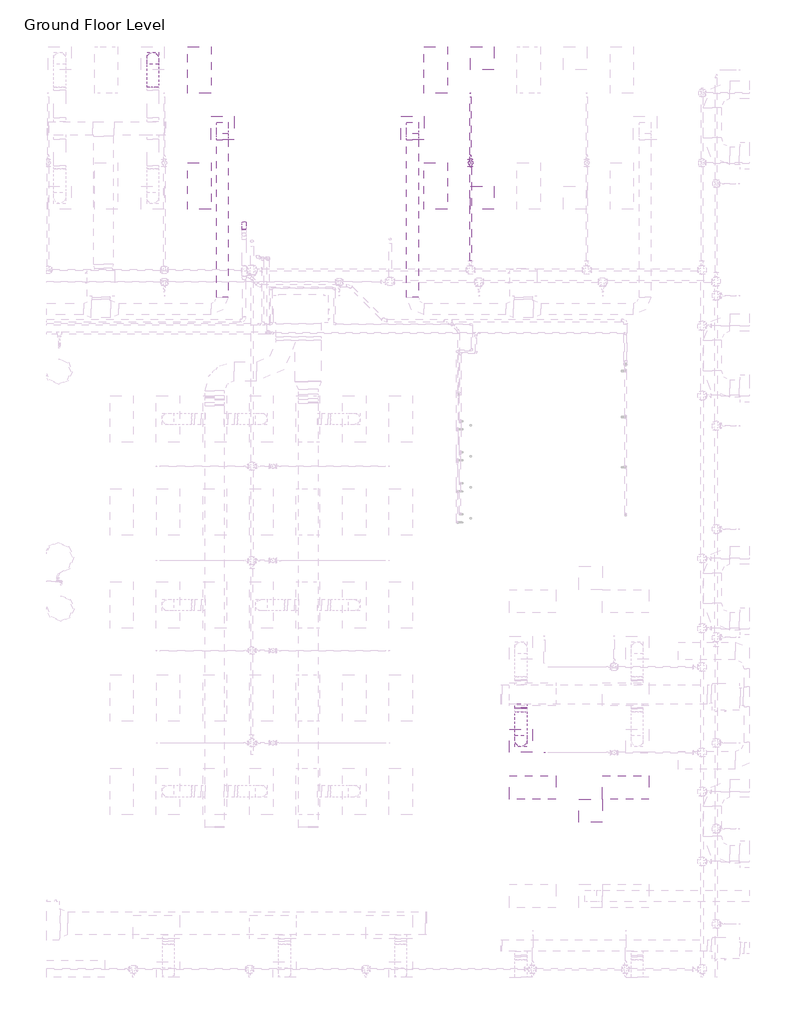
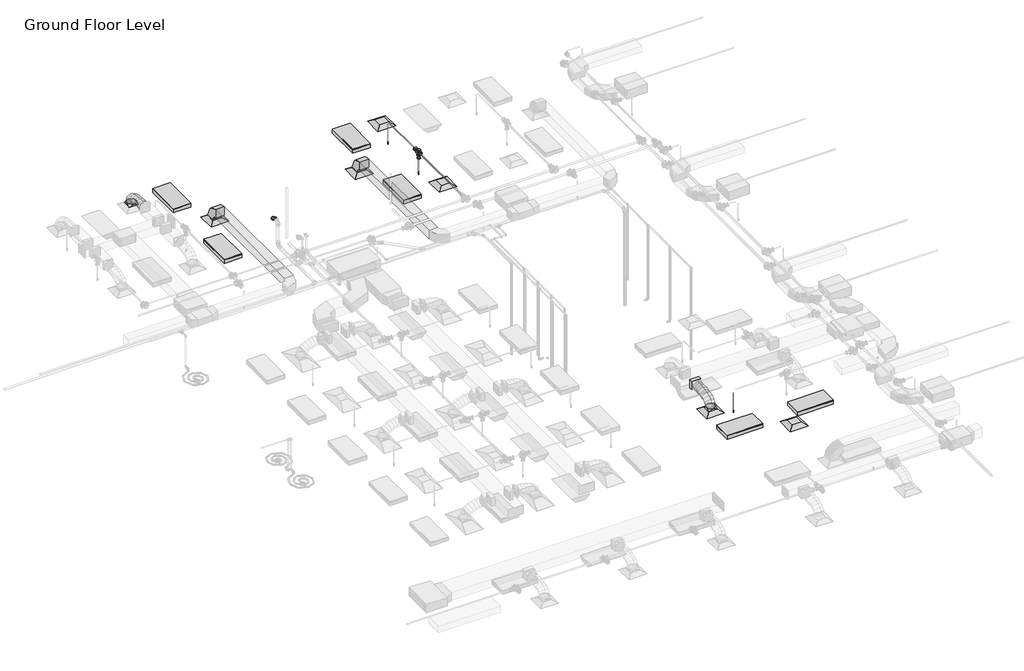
# One storey, part 56 of 68: 7 duct segments, 6 air terminals, 6 light fixtures, 6 pipe segments, 5 duct fittings, 4 pipe fittings, 3 fire suppression terminals.
"""IFC4 building model written with IfcOpenShell, lengths in millimetres."""

from ifc_helpers import new_model, si_unit, point, frame, frame_2d, origin, place, context, project, spatial, polyline, circle_curve, ellipse_curve, trimmed, segment, composite_curve, outline, extrude, transform, mapped, element, save
from ifc_brep_helpers import plane_surface, cylinder_surface, advanced_brep
from components import m_return_diffuser_600_x_600_face_300_x_300_connection_ff221211, m_rectangular_elbow_radius_1_w_618da153, m_rectangular_takeoff_standard_cb0ccb98, m_rectangular_to_round_transition_angle_45_degree_641efff0, m_sprinkler_dry_pendent_hosted_15_mm_dry_pendent_9bda8e11, m_troffer_light_parabolic_rectangular1_0600x1200mm_4_lamp_86473d4a, m_bend_pvc_sch_40_dwv_standard_97688ec5, m_reducer_flanged_cs_class_150_standard_d42b2106, m_tee_round_base_flanged_cs_class_150_standard_7e5987a1

model = new_model("IFC4")

# Units and contexts
model_context = context("Model", 3, world=origin())
ifc_project = project(units=[si_unit("LENGTHUNIT", "METRE", prefix="MILLI")], contexts=[model_context])

# Site, building, storey
site = spatial("IfcSite", under=ifc_project)
building = spatial("IfcBuilding", under=site)
storey = spatial("IfcBuildingStorey", under=building, Name="Ground Floor Level", Elevation=900.0)

# Air terminals
placement = place(None, origin())
m_return_diffuser_600_x_600_face_300_x_300_connection_shape = m_return_diffuser_600_x_600_face_300_x_300_connection_ff221211(model_context)
element("IfcAirTerminal", 1, ObjectType="M_Return Diffuser : 600 x 600 Face 300 x 300 Connection", at=placement, inside=storey, context=model_context, shape_type="MappedRepresentation", body=[
    mapped(m_return_diffuser_600_x_600_face_300_x_300_connection_shape, transform((-6737.2327605, 18735.2153534, 3650.0), x_axis=(1.0, 0.0, 0.0), y_axis=(0.0, 1.0, 0.0), z_axis=(0.0, 0.0, 1.0))),
])
element("IfcAirTerminal", 2, ObjectType="M_Return Diffuser : 600 x 600 Face 300 x 300 Connection", at=placement, inside=storey, context=model_context, shape_type="MappedRepresentation", body=[
    mapped(m_return_diffuser_600_x_600_face_300_x_300_connection_shape, transform((-1837.2327605, 18735.2153534, 3650.0), x_axis=(1.0, 0.0, 0.0), y_axis=(0.0, 1.0, 0.0), z_axis=(0.0, 0.0, 1.0))),
])
element("IfcAirTerminal", 3, ObjectType="M_Return Diffuser : 600 x 600 Face 300 x 300 Connection", at=placement, inside=storey, context=model_context, shape_type="MappedRepresentation", body=[
    mapped(m_return_diffuser_600_x_600_face_300_x_300_connection_shape, transform((2762.7672395, 1135.2153534, 3650.0), x_axis=(1.0, 0.0, 0.0), y_axis=(0.0, 1.0, 0.0), z_axis=(0.0, 0.0, 1.0))),
])
element("IfcAirTerminal", 4, ObjectType="M_Supply Diffuser : 600 x 600 Face 300 x 300 Connection", at=placement, inside=storey, context=model_context, shape_type="MappedRepresentation", body=[
    mapped(m_return_diffuser_600_x_600_face_300_x_300_connection_shape, transform((-37.2327605, 20535.2153534, 3650.0), x_axis=(1.0, 0.0, 0.0), y_axis=(0.0, 1.0, 0.0), z_axis=(0.0, 0.0, 1.0))),
])
element("IfcAirTerminal", 5, ObjectType="M_Supply Diffuser : 600 x 600 Face 300 x 300 Connection", at=placement, inside=storey, context=model_context, shape_type="MappedRepresentation", body=[
    mapped(m_return_diffuser_600_x_600_face_300_x_300_connection_shape, transform((-37.2327605, 16935.2153534, 3650.0), x_axis=(1.0, 0.0, 0.0), y_axis=(0.0, 1.0, 0.0), z_axis=(0.0, 0.0, 1.0))),
])
element("IfcAirTerminal", 6, ObjectType="M_Supply Diffuser : 600 x 600 Face 300 x 300 Connection", at=placement, inside=storey, context=model_context, shape_type="MappedRepresentation", body=[
    mapped(m_return_diffuser_600_x_600_face_300_x_300_connection_shape, transform((962.7672395, 2935.2153534, 3650.0), x_axis=(1.0, 0.0, 0.0), y_axis=(0.0, 1.0, 0.0), z_axis=(0.0, 0.0, 1.0))),
])

# Duct fittings
m_rectangular_elbow_radius_1_w_shape = m_rectangular_elbow_radius_1_w_618da153(model_context)
element("IfcDuctFitting", 7, ObjectType="M_Rectangular Elbow - Radius : 1 W", at=placement, inside=storey, context=model_context, shape_type="MappedRepresentation", body=[
    mapped(m_rectangular_elbow_radius_1_w_shape, transform((-6737.2327605, 18735.2153534, 4075.2872564), x_axis=(0.0, 0.0, 1.0), y_axis=(0.0, -1.0, 0.0), z_axis=(1.0, 0.0, 0.0))),
])
element("IfcDuctFitting", 8, ObjectType="M_Rectangular Elbow - Radius : 1 W", at=placement, inside=storey, context=model_context, shape_type="MappedRepresentation", body=[
    mapped(m_rectangular_elbow_radius_1_w_shape, transform((-1837.2327605, 18735.2153534, 4075.2872564), x_axis=(0.0, 0.0, 1.0), y_axis=(0.0, -1.0, 0.0), z_axis=(1.0, 0.0, 0.0))),
])
m_rectangular_takeoff_standard_shape = m_rectangular_takeoff_standard_cb0ccb98(model_context)
element("IfcDuctFitting", 9, ObjectType="M_Rectangular Takeoff : Standard", at=placement, inside=storey, context=model_context, shape_type="MappedRepresentation", body=[
    mapped(m_rectangular_takeoff_standard_shape, transform((962.7672395, 3885.0199167, 4099.9886676), x_axis=(0.0, -1.0, 0.0), y_axis=(-1.0, 0.0, 0.0), z_axis=(0.0, 0.0, -1.0))),
])
m_rectangular_to_round_transition_angle_45_degree_shape = m_rectangular_to_round_transition_angle_45_degree_641efff0(model_context)
element("IfcDuctFitting", 10, ObjectType="M_Rectangular to Round Transition - Angle : 45 Degree", at=placement, inside=storey, context=model_context, shape_type="MappedRepresentation", body=[
    mapped(m_rectangular_to_round_transition_angle_45_degree_shape, transform((-8537.2327605, 20535.2153534, 3751.6), x_axis=(0.0, 0.0, 1.0), y_axis=(-1.0, 0.0, 0.0), z_axis=(0.0, -1.0, 0.0))),
])
element("IfcDuctFitting", 11, ObjectType="M_Rectangular to Round Transition - Angle : 45 Degree", at=placement, inside=storey, context=model_context, shape_type="MappedRepresentation", body=[
    mapped(m_rectangular_to_round_transition_angle_45_degree_shape, transform((962.7672395, 2935.2153534, 3751.6), x_axis=(0.0, 0.0, 1.0), y_axis=(-1.0, 0.0, 0.0), z_axis=(0.0, -1.0, 0.0))),
])

# Duct segments
element("IfcDuctSegment", 12, ObjectType="Flex - Round", at=placement, inside=storey, context=model_context, shape_type="AdvancedBrep", body=[
    advanced_brep(
    [(-8387.2327605, 20535.2153534, 3826.6), (-8537.2327605, 20385.2153534, 3826.6), (-8687.2327605, 20535.2153534, 3826.6), (-8537.2327605, 20685.2153534, 3826.6), (-8387.2327605, 20535.2153534, 3857.937778), (-8537.2327605, 20385.2153534, 3832.2944744), (-8687.2327605, 20535.2153534, 3857.937778), (-8537.2327605, 20685.2153534, 3883.5810816), (-8387.2327605, 20518.1993769, 3906.2506017), (-8537.2327605, 20384.4614978, 3834.4348684), (-8687.2327605, 20518.1993769, 3906.2506017), (-8537.2327605, 20651.937256, 3978.0663351), (-8387.2327605, 20471.0153769, 3968.7112406), (-8537.2327605, 20366.8097489, 3857.8016772), (-8687.2327605, 20471.0153769, 3968.7112406), (-8537.2327605, 20575.2210049, 4079.6208039), (-8387.2327605, 20399.4592477, 4016.0697935), (-8537.2327605, 20330.5256195, 3881.8158865), (-8687.2327605, 20399.4592477, 4016.0697935), (-8537.2327605, 20468.3928758, 4150.3237004), (-8387.2327605, 20309.3268835, 4050.4141374), (-8537.2327605, 20265.7665876, 3906.4918893), (-8687.2327605, 20309.3268835, 4050.4141374), (-8537.2327605, 20352.8871794, 4194.3363855), (-8387.2327605, 20206.4141786, 4073.8321493), (-8537.2327605, 20179.8536975, 3926.0415559), (-8687.2327605, 20206.4141786, 4073.8321493), (-8537.2327605, 20232.9746597, 4221.6227426), (-8387.2327605, 20096.5170273, 4088.411706), (-8537.2327605, 20081.3665099, 3939.1074046), (-8687.2327605, 20096.5170273, 4088.411706), (-8537.2327605, 20111.6675446, 4237.7160075), (-8387.2327605, 19985.4313238, 4096.2406846), (-8537.2327605, 19977.9262951, 3946.3975526), (-8687.2327605, 19985.4313238, 4096.2406846), (-8537.2327605, 19992.9363525, 4246.0838166), (-8387.2327605, 19878.9529624, 4099.406962), (-8537.2327605, 19876.2616453, 3949.4206879), (-8687.2327605, 19878.9529624, 4099.406962), (-8537.2327605, 19881.6442795, 4249.3932362), (-8387.2327605, 19782.8778373, 4099.9984152), (-8537.2327605, 19783.8012427, 4249.9955729), (-8687.2327605, 19782.8778373, 4099.9984152), (-8537.2327605, 19781.9544319, 3950.0012575)],
    [
        (0, 1, circle_curve(frame((-8537.2327605, 20535.2153534, 3826.6), z_axis=(0.0, 0.0, -1.0), x_axis=(1.0, 0.0, 0.0)), 150.0)),
        (1, 2, circle_curve(frame((-8537.2327605, 20535.2153534, 3826.6), z_axis=(0.0, 0.0, -1.0), x_axis=(1.0, 0.0, 0.0)), 150.0)),
        (2, 3, circle_curve(frame((-8537.2327605, 20535.2153534, 3826.6), z_axis=(0.0, 0.0, -1.0), x_axis=(1.0, 0.0, 0.0)), 150.0)),
        (3, 0, circle_curve(frame((-8537.2327605, 20535.2153534, 3826.6), z_axis=(0.0, 0.0, -1.0), x_axis=(1.0, 0.0, 0.0)), 150.0)),
        (0, 4),
        (4, 5, ellipse_curve(frame((-8537.2327605, 20535.2153534, 3857.937778), z_axis=(0.0, 0.16851066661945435, -0.985699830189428), x_axis=(0.0, -0.985699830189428, -0.16851066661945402)), 152.1761447, 150.0)),
        (5, 1),
        (5, 6, ellipse_curve(frame((-8537.2327605, 20535.2153534, 3857.937778), z_axis=(0.0, 0.16851066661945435, -0.985699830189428), x_axis=(0.0, -0.985699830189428, -0.16851066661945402)), 152.1761447, 150.0)),
        (6, 2),
        (6, 7, ellipse_curve(frame((-8537.2327605, 20535.2153534, 3857.937778), z_axis=(0.0, 0.16851066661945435, -0.985699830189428), x_axis=(0.0, -0.985699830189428, -0.16851066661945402)), 152.1761447, 150.0)),
        (7, 3),
        (7, 4, ellipse_curve(frame((-8537.2327605, 20535.2153534, 3857.937778), z_axis=(0.0, 0.16851066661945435, -0.985699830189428), x_axis=(0.0, -0.985699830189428, -0.16851066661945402)), 152.1761447, 150.0)),
        (4, 8),
        (8, 9, ellipse_curve(frame((-8537.2327605, 20518.1993769, 3906.2506017), z_axis=(0.0, 0.4730936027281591, -0.8810121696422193), x_axis=(0.0, -0.8810121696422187, -0.4730936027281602)), 151.8002631, 150.0)),
        (9, 5),
        (9, 10, ellipse_curve(frame((-8537.2327605, 20518.1993769, 3906.2506017), z_axis=(0.0, 0.4730936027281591, -0.8810121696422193), x_axis=(0.0, -0.8810121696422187, -0.4730936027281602)), 151.8002631, 150.0)),
        (10, 6),
        (10, 11, ellipse_curve(frame((-8537.2327605, 20518.1993769, 3906.2506017), z_axis=(0.0, 0.4730936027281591, -0.8810121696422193), x_axis=(0.0, -0.8810121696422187, -0.4730936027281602)), 151.8002631, 150.0)),
        (11, 7),
        (11, 8, ellipse_curve(frame((-8537.2327605, 20518.1993769, 3906.2506017), z_axis=(0.0, 0.4730936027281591, -0.8810121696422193), x_axis=(0.0, -0.8810121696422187, -0.4730936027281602)), 151.8002631, 150.0)),
        (8, 12),
        (12, 13, ellipse_curve(frame((-8537.2327605, 20471.0153769, 3968.7112406), z_axis=(0.0, 0.7287895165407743, -0.6847377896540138), x_axis=(0.0, -0.6847377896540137, -0.7287895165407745)), 152.1832584, 150.0)),
        (13, 9),
        (13, 14, ellipse_curve(frame((-8537.2327605, 20471.0153769, 3968.7112406), z_axis=(0.0, 0.7287895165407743, -0.6847377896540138), x_axis=(0.0, -0.6847377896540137, -0.7287895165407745)), 152.1832584, 150.0)),
        (14, 10),
        (14, 15, ellipse_curve(frame((-8537.2327605, 20471.0153769, 3968.7112406), z_axis=(0.0, 0.7287895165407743, -0.6847377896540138), x_axis=(0.0, -0.6847377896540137, -0.7287895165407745)), 152.1832584, 150.0)),
        (15, 11),
        (15, 12, ellipse_curve(frame((-8537.2327605, 20471.0153769, 3968.7112406), z_axis=(0.0, 0.7287895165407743, -0.6847377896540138), x_axis=(0.0, -0.6847377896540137, -0.7287895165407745)), 152.1832584, 150.0)),
        (12, 16),
        (16, 17, ellipse_curve(frame((-8537.2327605, 20399.4592477, 4016.0697935), z_axis=(0.0, 0.8895873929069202, -0.4567650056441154), x_axis=(0.0, -0.4567650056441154, -0.8895873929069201)), 150.9170521, 150.0)),
        (17, 13),
        (17, 18, ellipse_curve(frame((-8537.2327605, 20399.4592477, 4016.0697935), z_axis=(0.0, 0.8895873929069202, -0.4567650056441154), x_axis=(0.0, -0.4567650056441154, -0.8895873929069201)), 150.9170521, 150.0)),
        (18, 14),
        (18, 19, ellipse_curve(frame((-8537.2327605, 20399.4592477, 4016.0697935), z_axis=(0.0, 0.8895873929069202, -0.4567650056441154), x_axis=(0.0, -0.4567650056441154, -0.8895873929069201)), 150.9170521, 150.0)),
        (19, 15),
        (19, 16, ellipse_curve(frame((-8537.2327605, 20399.4592477, 4016.0697935), z_axis=(0.0, 0.8895873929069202, -0.4567650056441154), x_axis=(0.0, -0.4567650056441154, -0.8895873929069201)), 150.9170521, 150.0)),
        (16, 20),
        (20, 21, ellipse_curve(frame((-8537.2327605, 20309.3268835, 4050.4141374), z_axis=(0.0, 0.9571212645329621, -0.2896875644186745), x_axis=(0.0, -0.28968756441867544, -0.9571212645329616)), 150.3699202, 150.0)),
        (21, 17),
        (21, 22, ellipse_curve(frame((-8537.2327605, 20309.3268835, 4050.4141374), z_axis=(0.0, 0.9571212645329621, -0.2896875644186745), x_axis=(0.0, -0.28968756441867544, -0.9571212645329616)), 150.3699202, 150.0)),
        (22, 18),
        (22, 23, ellipse_curve(frame((-8537.2327605, 20309.3268835, 4050.4141374), z_axis=(0.0, 0.9571212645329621, -0.2896875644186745), x_axis=(0.0, -0.28968756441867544, -0.9571212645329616)), 150.3699202, 150.0)),
        (23, 19),
        (23, 20, ellipse_curve(frame((-8537.2327605, 20309.3268835, 4050.4141374), z_axis=(0.0, 0.9571212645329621, -0.2896875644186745), x_axis=(0.0, -0.28968756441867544, -0.9571212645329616)), 150.3699202, 150.0)),
        (20, 24),
        (24, 25, ellipse_curve(frame((-8537.2327605, 20206.4141786, 4073.8321493), z_axis=(0.0, 0.9842318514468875, -0.17688318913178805), x_axis=(0.0, -0.17688318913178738, -0.9842318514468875)), 150.1583119, 150.0)),
        (25, 21),
        (25, 26, ellipse_curve(frame((-8537.2327605, 20206.4141786, 4073.8321493), z_axis=(0.0, 0.9842318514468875, -0.17688318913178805), x_axis=(0.0, -0.17688318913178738, -0.9842318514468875)), 150.1583119, 150.0)),
        (26, 22),
        (26, 27, ellipse_curve(frame((-8537.2327605, 20206.4141786, 4073.8321493), z_axis=(0.0, 0.9842318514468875, -0.17688318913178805), x_axis=(0.0, -0.17688318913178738, -0.9842318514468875)), 150.1583119, 150.0)),
        (27, 23),
        (27, 24, ellipse_curve(frame((-8537.2327605, 20206.4141786, 4073.8321493), z_axis=(0.0, 0.9842318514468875, -0.17688318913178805), x_axis=(0.0, -0.17688318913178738, -0.9842318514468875)), 150.1583119, 150.0)),
        (24, 28),
        (28, 29, ellipse_curve(frame((-8537.2327605, 20096.5170273, 4088.411706), z_axis=(0.0, 0.9948909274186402, -0.10095564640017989), x_axis=(0.0, -0.10095564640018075, -0.99489092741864)), 150.0710252, 150.0)),
        (29, 25),
        (29, 30, ellipse_curve(frame((-8537.2327605, 20096.5170273, 4088.411706), z_axis=(0.0, 0.9948909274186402, -0.10095564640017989), x_axis=(0.0, -0.10095564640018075, -0.99489092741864)), 150.0710252, 150.0)),
        (30, 26),
        (30, 31, ellipse_curve(frame((-8537.2327605, 20096.5170273, 4088.411706), z_axis=(0.0, 0.9948909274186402, -0.10095564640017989), x_axis=(0.0, -0.10095564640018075, -0.99489092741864)), 150.0710252, 150.0)),
        (31, 27),
        (31, 28, ellipse_curve(frame((-8537.2327605, 20096.5170273, 4088.411706), z_axis=(0.0, 0.9948909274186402, -0.10095564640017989), x_axis=(0.0, -0.10095564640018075, -0.99489092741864)), 150.0710252, 150.0)),
        (28, 32),
        (32, 33, ellipse_curve(frame((-8537.2327605, 19985.4313238, 4096.2406846), z_axis=(0.0, 0.9987480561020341, -0.05002319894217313), x_axis=(0.0, -0.050023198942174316, -0.9987480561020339)), 150.0309623, 150.0)),
        (33, 29),
        (33, 34, ellipse_curve(frame((-8537.2327605, 19985.4313238, 4096.2406846), z_axis=(0.0, 0.9987480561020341, -0.05002319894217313), x_axis=(0.0, -0.050023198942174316, -0.9987480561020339)), 150.0309623, 150.0)),
        (34, 30),
        (34, 35, ellipse_curve(frame((-8537.2327605, 19985.4313238, 4096.2406846), z_axis=(0.0, 0.9987480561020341, -0.05002319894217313), x_axis=(0.0, -0.050023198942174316, -0.9987480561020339)), 150.0309623, 150.0)),
        (35, 31),
        (35, 32, ellipse_curve(frame((-8537.2327605, 19985.4313238, 4096.2406846), z_axis=(0.0, 0.9987480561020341, -0.05002319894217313), x_axis=(0.0, -0.050023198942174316, -0.9987480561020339)), 150.0309623, 150.0)),
        (32, 36),
        (36, 37, ellipse_curve(frame((-8537.2327605, 19878.9529624, 4099.406962), z_axis=(0.0, 0.99983904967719, -0.017940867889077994), x_axis=(0.0, -0.017940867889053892, -0.9998390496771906)), 150.0104184, 150.0)),
        (37, 33),
        (37, 38, ellipse_curve(frame((-8537.2327605, 19878.9529624, 4099.406962), z_axis=(0.0, 0.99983904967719, -0.017940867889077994), x_axis=(0.0, -0.017940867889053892, -0.9998390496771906)), 150.0104184, 150.0)),
        (38, 34),
        (38, 39, ellipse_curve(frame((-8537.2327605, 19878.9529624, 4099.406962), z_axis=(0.0, 0.99983904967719, -0.017940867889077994), x_axis=(0.0, -0.017940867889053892, -0.9998390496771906)), 150.0104184, 150.0)),
        (39, 35),
        (39, 36, ellipse_curve(frame((-8537.2327605, 19878.9529624, 4099.406962), z_axis=(0.0, 0.99983904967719, -0.017940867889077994), x_axis=(0.0, -0.017940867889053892, -0.9998390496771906)), 150.0104184, 150.0)),
        (40, 41, circle_curve(frame((-8537.2327605, 19782.8778373, 4099.9984152), z_axis=(0.0, -0.9999810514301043, 0.006156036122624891), x_axis=(1.0, 0.0, 0.0)), 150.0)),
        (41, 42, circle_curve(frame((-8537.2327605, 19782.8778373, 4099.9984152), z_axis=(0.0, -0.9999810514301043, 0.006156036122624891), x_axis=(1.0, 0.0, 0.0)), 150.0)),
        (42, 43, circle_curve(frame((-8537.2327605, 19782.8778373, 4099.9984152), z_axis=(0.0, -0.9999810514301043, 0.006156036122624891), x_axis=(1.0, 0.0, 0.0)), 150.0)),
        (43, 40, circle_curve(frame((-8537.2327605, 19782.8778373, 4099.9984152), z_axis=(0.0, -0.9999810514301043, 0.006156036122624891), x_axis=(1.0, 0.0, 0.0)), 150.0)),
        (36, 40),
        (43, 37),
        (42, 38),
        (41, 39),
    ],
    [
        plane_surface(frame((-8537.2327605, 20385.2153534, 3826.6), z_axis=(0.0, 0.0, -1.0), x_axis=(1.0, 0.0, 0.0))),
        cylinder_surface(frame((-8537.2327605, 20535.2153534, 3826.6), z_axis=(0.0, 0.0, -1.0), x_axis=(1.0, 0.0, 0.0)), 150.0),
        cylinder_surface(frame((-8537.2327605, 20535.2153534, 3857.937778), z_axis=(0.0, 0.3322018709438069, -0.9432083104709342), x_axis=(1.0, 0.0, 0.0)), 150.0),
        cylinder_surface(frame((-8537.2327605, 20518.1993769, 3906.2506017), z_axis=(0.0, 0.6027641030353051, -0.7979194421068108), x_axis=(1.0, 0.0, 0.0)), 150.0),
        cylinder_surface(frame((-8537.2327605, 20471.0153769, 3968.7112406), z_axis=(0.0, 0.8339041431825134, -0.5519093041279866), x_axis=(1.0, 0.0, 0.0)), 150.0),
        cylinder_surface(frame((-8537.2327605, 20399.4592477, 4016.0697935), z_axis=(0.0, 0.9344594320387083, -0.3560696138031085), x_axis=(1.0, 0.0, 0.0)), 150.0),
        cylinder_surface(frame((-8537.2327605, 20309.3268835, 4050.4141374), z_axis=(0.0, 0.9750739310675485, -0.22188021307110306), x_axis=(1.0, 0.0, 0.0)), 150.0),
        cylinder_surface(frame((-8537.2327605, 20206.4141786, 4073.8321493), z_axis=(0.0, 0.9913144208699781, -0.13151318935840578), x_axis=(1.0, 0.0, 0.0)), 150.0),
        cylinder_surface(frame((-8537.2327605, 20096.5170273, 4088.411706), z_axis=(0.0, 0.9975257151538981, -0.07030254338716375), x_axis=(1.0, 0.0, 0.0)), 150.0),
        cylinder_surface(frame((-8537.2327605, 19985.4313238, 4096.2406846), z_axis=(0.0, 0.9995581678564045, -0.029723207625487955), x_axis=(1.0, 0.0, 0.0)), 150.0),
        plane_surface(frame((-8537.2327605, 19781.9544319, 3950.0012575), z_axis=(0.0, -0.9999810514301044, 0.006156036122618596), x_axis=(1.0, 0.0, 0.0))),
        cylinder_surface(frame((-8537.2327605, 19878.9529624, 4099.406962), z_axis=(0.0, 0.9999810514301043, -0.006156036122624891), x_axis=(1.0, 0.0, 0.0)), 150.0),
    ],
    [
        (0, [[1, 2, 3, 4]]),
        (1, [[-1, 5, 6, 7]]),
        (1, [[-2, -7, 8, 9]]),
        (1, [[-3, -9, 10, 11]]),
        (1, [[-4, -11, 12, -5]]),
        (2, [[-6, 13, 14, 15]]),
        (2, [[-8, -15, 16, 17]]),
        (2, [[-10, -17, 18, 19]]),
        (2, [[-12, -19, 20, -13]]),
        (3, [[-14, 21, 22, 23]]),
        (3, [[-16, -23, 24, 25]]),
        (3, [[-18, -25, 26, 27]]),
        (3, [[-20, -27, 28, -21]]),
        (4, [[-22, 29, 30, 31]]),
        (4, [[-24, -31, 32, 33]]),
        (4, [[-26, -33, 34, 35]]),
        (4, [[-28, -35, 36, -29]]),
        (5, [[-30, 37, 38, 39]]),
        (5, [[-32, -39, 40, 41]]),
        (5, [[-34, -41, 42, 43]]),
        (5, [[-36, -43, 44, -37]]),
        (6, [[-38, 45, 46, 47]]),
        (6, [[-40, -47, 48, 49]]),
        (6, [[-42, -49, 50, 51]]),
        (6, [[-44, -51, 52, -45]]),
        (7, [[-46, 53, 54, 55]]),
        (7, [[-48, -55, 56, 57]]),
        (7, [[-50, -57, 58, 59]]),
        (7, [[-52, -59, 60, -53]]),
        (8, [[-54, 61, 62, 63]]),
        (8, [[-56, -63, 64, 65]]),
        (8, [[-58, -65, 66, 67]]),
        (8, [[-60, -67, 68, -61]]),
        (9, [[-62, 69, 70, 71]]),
        (9, [[-64, -71, 72, 73]]),
        (9, [[-66, -73, 74, 75]]),
        (9, [[-68, -75, 76, -69]]),
        (10, [[77, 78, 79, 80]]),
        (11, [[-70, 81, -80, 82]]),
        (11, [[-72, -82, -79, 83]]),
        (11, [[-74, -83, -78, 84]]),
        (11, [[-76, -84, -77, -81]]),
    ],
),
])
element("IfcDuctSegment", 13, ObjectType="Flex - Round", at=placement, inside=storey, context=model_context, shape_type="AdvancedBrep", body=[
    advanced_brep(
    [(1112.7672395, 2935.2153534, 3826.6), (962.7672395, 2785.2153534, 3826.6), (812.7672395, 2935.2153534, 3826.6), (962.7672395, 3085.2153534, 3826.6), (1112.7672395, 2935.2153534, 3857.9381871), (962.7672395, 2785.2153534, 3883.5819907), (812.7672395, 2935.2153534, 3857.9381871), (962.7672395, 3085.2153534, 3832.2943835), (1112.7672395, 2952.2316002, 3906.2507795), (962.7672395, 2818.4943349, 3978.0678013), (812.7672395, 2952.2316002, 3906.2507795), (962.7672395, 3085.9688654, 3834.4337577), (1112.7672395, 2999.416336, 3968.7107945), (962.7672395, 2895.2123764, 4079.622042), (812.7672395, 2999.416336, 3968.7107945), (962.7672395, 3103.6202956, 3857.7995469), (1112.7672395, 3070.9735542, 4016.0681304), (962.7672395, 3002.0425552, 4150.3234022), (812.7672395, 3070.9735542, 4016.0681304), (962.7672395, 3139.9045533, 3881.8128585), (1112.7672395, 3161.1072481, 4050.4108726), (962.7672395, 3117.549826, 4194.3339853), (812.7672395, 3161.1072481, 4050.4108726), (962.7672395, 3204.6646702, 3906.4877598), (1112.7672395, 3264.0214108, 4073.8271066), (962.7672395, 3237.463654, 4221.618182), (812.7672395, 3264.0214108, 4073.8271066), (962.7672395, 3290.5791677, 3926.0360311), (1112.7672395, 3373.9200359, 4088.4049176), (962.7672395, 3358.7718863, 4237.7094524), (812.7672395, 3373.9200359, 4088.4049176), (962.7672395, 3389.0681854, 3939.1003829), (1112.7672395, 3485.0071164, 4096.2323912), (962.7672395, 3477.5039298, 4246.0756092), (812.7672395, 3485.0071164, 4096.2323912), (962.7672395, 3492.5103029, 3946.3891733), (1112.7672395, 3591.4866457, 4099.3976128), (962.7672395, 3588.796411, 4249.383901), (812.7672395, 3591.4866457, 4099.3976128), (962.7672395, 3594.1768803, 3949.4113245), (1112.7672395, 3687.562617, 4099.9886676), (962.7672395, 3688.4853925, 3949.991506), (812.7672395, 3687.562617, 4099.9886676), (962.7672395, 3686.6398415, 4249.9858292)],
    [
        (0, 1, circle_curve(frame((962.7672395, 2935.2153534, 3826.6), z_axis=(0.0, 0.0, -1.0), x_axis=(1.0, 0.0, 0.0)), 150.0)),
        (1, 2, circle_curve(frame((962.7672395, 2935.2153534, 3826.6), z_axis=(0.0, 0.0, -1.0), x_axis=(1.0, 0.0, 0.0)), 150.0)),
        (2, 3, circle_curve(frame((962.7672395, 2935.2153534, 3826.6), z_axis=(0.0, 0.0, -1.0), x_axis=(1.0, 0.0, 0.0)), 150.0)),
        (3, 0, circle_curve(frame((962.7672395, 2935.2153534, 3826.6), z_axis=(0.0, 0.0, -1.0), x_axis=(1.0, 0.0, 0.0)), 150.0)),
        (0, 4),
        (4, 5, ellipse_curve(frame((962.7672395, 2935.2153534, 3857.9381871), z_axis=(0.0, -0.16851385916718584, -0.9856992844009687), x_axis=(0.0, 0.9856992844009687, -0.16851385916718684)), 152.176229, 150.0)),
        (5, 1),
        (5, 6, ellipse_curve(frame((962.7672395, 2935.2153534, 3857.9381871), z_axis=(0.0, -0.16851385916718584, -0.9856992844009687), x_axis=(0.0, 0.9856992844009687, -0.16851385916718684)), 152.176229, 150.0)),
        (6, 2),
        (6, 7, ellipse_curve(frame((962.7672395, 2935.2153534, 3857.9381871), z_axis=(0.0, -0.16851385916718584, -0.9856992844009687), x_axis=(0.0, 0.9856992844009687, -0.16851385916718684)), 152.176229, 150.0)),
        (7, 3),
        (7, 4, ellipse_curve(frame((962.7672395, 2935.2153534, 3857.9381871), z_axis=(0.0, -0.16851385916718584, -0.9856992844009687), x_axis=(0.0, 0.9856992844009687, -0.16851385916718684)), 152.176229, 150.0)),
        (4, 8),
        (8, 9, ellipse_curve(frame((962.7672395, 2952.2316002, 3906.2507795), z_axis=(0.0, -0.47310187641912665, -0.8810077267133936), x_axis=(0.0, 0.881007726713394, -0.47310187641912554)), 151.8003318, 150.0)),
        (9, 5),
        (9, 10, ellipse_curve(frame((962.7672395, 2952.2316002, 3906.2507795), z_axis=(0.0, -0.47310187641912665, -0.8810077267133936), x_axis=(0.0, 0.881007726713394, -0.47310187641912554)), 151.8003318, 150.0)),
        (10, 6),
        (10, 11, ellipse_curve(frame((962.7672395, 2952.2316002, 3906.2507795), z_axis=(0.0, -0.47310187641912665, -0.8810077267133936), x_axis=(0.0, 0.881007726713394, -0.47310187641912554)), 151.8003318, 150.0)),
        (11, 7),
        (11, 8, ellipse_curve(frame((962.7672395, 2952.2316002, 3906.2507795), z_axis=(0.0, -0.47310187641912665, -0.8810077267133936), x_axis=(0.0, 0.881007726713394, -0.47310187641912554)), 151.8003318, 150.0)),
        (8, 12),
        (12, 13, ellipse_curve(frame((962.7672395, 2999.416336, 3968.7107945), z_axis=(0.0, -0.7288001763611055, -0.6847264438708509), x_axis=(0.0, 0.6847264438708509, -0.7288001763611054)), 152.1833434, 150.0)),
        (13, 9),
        (13, 14, ellipse_curve(frame((962.7672395, 2999.416336, 3968.7107945), z_axis=(0.0, -0.7288001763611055, -0.6847264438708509), x_axis=(0.0, 0.6847264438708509, -0.7288001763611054)), 152.1833434, 150.0)),
        (14, 10),
        (14, 15, ellipse_curve(frame((962.7672395, 2999.416336, 3968.7107945), z_axis=(0.0, -0.7288001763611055, -0.6847264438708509), x_axis=(0.0, 0.6847264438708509, -0.7288001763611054)), 152.1833434, 150.0)),
        (15, 11),
        (15, 12, ellipse_curve(frame((962.7672395, 2999.416336, 3968.7107945), z_axis=(0.0, -0.7288001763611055, -0.6847264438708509), x_axis=(0.0, 0.6847264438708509, -0.7288001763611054)), 152.1833434, 150.0)),
        (12, 16),
        (16, 17, ellipse_curve(frame((962.7672395, 3070.9735542, 4016.0681304), z_axis=(0.0, -0.8895963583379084, -0.45674754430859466), x_axis=(0.0, 0.4567475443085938, -0.8895963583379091)), 150.9170655, 150.0)),
        (17, 13),
        (17, 18, ellipse_curve(frame((962.7672395, 3070.9735542, 4016.0681304), z_axis=(0.0, -0.8895963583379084, -0.45674754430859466), x_axis=(0.0, 0.4567475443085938, -0.8895963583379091)), 150.9170655, 150.0)),
        (18, 14),
        (18, 19, ellipse_curve(frame((962.7672395, 3070.9735542, 4016.0681304), z_axis=(0.0, -0.8895963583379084, -0.45674754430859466), x_axis=(0.0, 0.4567475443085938, -0.8895963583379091)), 150.9170655, 150.0)),
        (19, 15),
        (19, 16, ellipse_curve(frame((962.7672395, 3070.9735542, 4016.0681304), z_axis=(0.0, -0.8895963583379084, -0.45674754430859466), x_axis=(0.0, 0.4567475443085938, -0.8895963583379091)), 150.9170655, 150.0)),
        (16, 20),
        (20, 21, ellipse_curve(frame((962.7672395, 3161.1072481, 4050.4108726), z_axis=(0.0, -0.9571270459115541, -0.2896684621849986), x_axis=(0.0, 0.2896684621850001, -0.9571270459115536)), 150.3699152, 150.0)),
        (21, 17),
        (21, 22, ellipse_curve(frame((962.7672395, 3161.1072481, 4050.4108726), z_axis=(0.0, -0.9571270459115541, -0.2896684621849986), x_axis=(0.0, 0.2896684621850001, -0.9571270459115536)), 150.3699152, 150.0)),
        (22, 18),
        (22, 23, ellipse_curve(frame((962.7672395, 3161.1072481, 4050.4108726), z_axis=(0.0, -0.9571270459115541, -0.2896684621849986), x_axis=(0.0, 0.2896684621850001, -0.9571270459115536)), 150.3699152, 150.0)),
        (23, 19),
        (23, 20, ellipse_curve(frame((962.7672395, 3161.1072481, 4050.4108726), z_axis=(0.0, -0.9571270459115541, -0.2896684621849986), x_axis=(0.0, 0.2896684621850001, -0.9571270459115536)), 150.3699152, 150.0)),
        (20, 24),
        (24, 25, ellipse_curve(frame((962.7672395, 3264.0214108, 4073.8271066), z_axis=(0.0, -0.984235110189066, -0.1768650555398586), x_axis=(0.0, 0.1768650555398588, -0.984235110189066)), 150.1583045, 150.0)),
        (25, 21),
        (25, 26, ellipse_curve(frame((962.7672395, 3264.0214108, 4073.8271066), z_axis=(0.0, -0.984235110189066, -0.1768650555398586), x_axis=(0.0, 0.1768650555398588, -0.984235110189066)), 150.1583045, 150.0)),
        (26, 22),
        (26, 27, ellipse_curve(frame((962.7672395, 3264.0214108, 4073.8271066), z_axis=(0.0, -0.984235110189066, -0.1768650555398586), x_axis=(0.0, 0.1768650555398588, -0.984235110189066)), 150.1583045, 150.0)),
        (27, 23),
        (27, 24, ellipse_curve(frame((962.7672395, 3264.0214108, 4073.8271066), z_axis=(0.0, -0.984235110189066, -0.1768650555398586), x_axis=(0.0, 0.1768650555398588, -0.984235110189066)), 150.1583045, 150.0)),
        (24, 28),
        (28, 29, ellipse_curve(frame((962.7672395, 3373.9200359, 4088.4049176), z_axis=(0.0, -0.9948925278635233, -0.10093987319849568), x_axis=(0.0, 0.10093987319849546, -0.9948925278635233)), 150.0710183, 150.0)),
        (29, 25),
        (29, 30, ellipse_curve(frame((962.7672395, 3373.9200359, 4088.4049176), z_axis=(0.0, -0.9948925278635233, -0.10093987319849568), x_axis=(0.0, 0.10093987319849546, -0.9948925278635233)), 150.0710183, 150.0)),
        (30, 26),
        (30, 31, ellipse_curve(frame((962.7672395, 3373.9200359, 4088.4049176), z_axis=(0.0, -0.9948925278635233, -0.10093987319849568), x_axis=(0.0, 0.10093987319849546, -0.9948925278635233)), 150.0710183, 150.0)),
        (31, 27),
        (31, 28, ellipse_curve(frame((962.7672395, 3373.9200359, 4088.4049176), z_axis=(0.0, -0.9948925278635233, -0.10093987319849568), x_axis=(0.0, 0.10093987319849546, -0.9948925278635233)), 150.0710183, 150.0)),
        (28, 32),
        (32, 33, ellipse_curve(frame((962.7672395, 3485.0071164, 4096.2323912), z_axis=(0.0, -0.9987486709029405, -0.050010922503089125), x_axis=(0.0, 0.05001092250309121, -0.9987486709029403)), 150.0309561, 150.0)),
        (33, 29),
        (33, 34, ellipse_curve(frame((962.7672395, 3485.0071164, 4096.2323912), z_axis=(0.0, -0.9987486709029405, -0.050010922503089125), x_axis=(0.0, 0.05001092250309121, -0.9987486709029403)), 150.0309561, 150.0)),
        (34, 30),
        (34, 35, ellipse_curve(frame((962.7672395, 3485.0071164, 4096.2323912), z_axis=(0.0, -0.9987486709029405, -0.050010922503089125), x_axis=(0.0, 0.05001092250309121, -0.9987486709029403)), 150.0309561, 150.0)),
        (35, 31),
        (35, 32, ellipse_curve(frame((962.7672395, 3485.0071164, 4096.2323912), z_axis=(0.0, -0.9987486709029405, -0.050010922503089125), x_axis=(0.0, 0.05001092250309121, -0.9987486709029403)), 150.0309561, 150.0)),
        (32, 36),
        (36, 37, ellipse_curve(frame((962.7672395, 3591.4866457, 4099.3976128), z_axis=(0.0, -0.9998391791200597, -0.017933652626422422), x_axis=(0.0, 0.01793365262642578, -0.9998391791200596)), 150.0104131, 150.0)),
        (37, 33),
        (37, 38, ellipse_curve(frame((962.7672395, 3591.4866457, 4099.3976128), z_axis=(0.0, -0.9998391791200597, -0.017933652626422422), x_axis=(0.0, 0.01793365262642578, -0.9998391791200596)), 150.0104131, 150.0)),
        (38, 34),
        (38, 39, ellipse_curve(frame((962.7672395, 3591.4866457, 4099.3976128), z_axis=(0.0, -0.9998391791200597, -0.017933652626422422), x_axis=(0.0, 0.01793365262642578, -0.9998391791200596)), 150.0104131, 150.0)),
        (39, 35),
        (39, 36, ellipse_curve(frame((962.7672395, 3591.4866457, 4099.3976128), z_axis=(0.0, -0.9998391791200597, -0.017933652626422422), x_axis=(0.0, 0.01793365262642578, -0.9998391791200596)), 150.0104131, 150.0)),
        (40, 41, circle_curve(frame((962.7672395, 3687.562617, 4099.9886676), z_axis=(0.0, 0.9999810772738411, 0.006151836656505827), x_axis=(1.0, 0.0, 0.0)), 150.0)),
        (41, 42, circle_curve(frame((962.7672395, 3687.562617, 4099.9886676), z_axis=(0.0, 0.9999810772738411, 0.006151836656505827), x_axis=(1.0, 0.0, 0.0)), 150.0)),
        (42, 43, circle_curve(frame((962.7672395, 3687.562617, 4099.9886676), z_axis=(0.0, 0.9999810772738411, 0.006151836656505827), x_axis=(1.0, 0.0, 0.0)), 150.0)),
        (43, 40, circle_curve(frame((962.7672395, 3687.562617, 4099.9886676), z_axis=(0.0, 0.9999810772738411, 0.006151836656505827), x_axis=(1.0, 0.0, 0.0)), 150.0)),
        (36, 40),
        (43, 37),
        (42, 38),
        (41, 39),
    ],
    [
        plane_surface(frame((962.7672395, 2785.2153534, 3826.6), z_axis=(0.0, 0.0, -1.0), x_axis=(1.0, 0.0, 0.0))),
        cylinder_surface(frame((962.7672395, 2935.2153534, 3826.6), z_axis=(0.0, 0.0, -1.0), x_axis=(1.0, 0.0, 0.0)), 150.0),
        cylinder_surface(frame((962.7672395, 2935.2153534, 3857.9381871), z_axis=(0.0, -0.33220798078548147, -0.9432061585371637), x_axis=(1.0, 0.0, 0.0)), 150.0),
        cylinder_surface(frame((962.7672395, 2952.2316002, 3906.2507795), z_axis=(0.0, -0.6027739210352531, -0.7979120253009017), x_axis=(1.0, 0.0, 0.0)), 150.0),
        cylinder_surface(frame((962.7672395, 2999.416336, 3968.7107945), z_axis=(0.0, -0.83391453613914, -0.5518936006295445), x_axis=(1.0, 0.0, 0.0)), 150.0),
        cylinder_surface(frame((962.7672395, 3070.9735542, 4016.0681304), z_axis=(0.0, -0.9344667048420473, -0.35605052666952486), x_axis=(1.0, 0.0, 0.0)), 150.0),
        cylinder_surface(frame((962.7672395, 3161.1072481, 4050.4108726), z_axis=(0.0, -0.975078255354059, -0.22186120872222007), x_axis=(1.0, 0.0, 0.0)), 150.0),
        cylinder_surface(frame((962.7672395, 3264.0214108, 4073.8271066), z_axis=(0.0, -0.9913167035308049, -0.1314959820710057), x_axis=(1.0, 0.0, 0.0)), 150.0),
        cylinder_surface(frame((962.7672395, 3373.9200359, 4088.4049176), z_axis=(0.0, -0.9975267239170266, -0.07028822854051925), x_axis=(1.0, 0.0, 0.0)), 150.0),
        cylinder_surface(frame((962.7672395, 3485.0071164, 4096.2323912), z_axis=(0.0, -0.9995584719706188, -0.029712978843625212), x_axis=(1.0, 0.0, 0.0)), 150.0),
        plane_surface(frame((962.7672395, 3686.6398415, 4249.9858292), z_axis=(0.0, 0.9999810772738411, 0.00615183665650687), x_axis=(1.0, 0.0, 0.0))),
        cylinder_surface(frame((962.7672395, 3591.4866457, 4099.3976128), z_axis=(0.0, -0.9999810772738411, -0.006151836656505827), x_axis=(1.0, 0.0, 0.0)), 150.0),
    ],
    [
        (0, [[1, 2, 3, 4]]),
        (1, [[-1, 5, 6, 7]]),
        (1, [[-2, -7, 8, 9]]),
        (1, [[-3, -9, 10, 11]]),
        (1, [[-4, -11, 12, -5]]),
        (2, [[-6, 13, 14, 15]]),
        (2, [[-8, -15, 16, 17]]),
        (2, [[-10, -17, 18, 19]]),
        (2, [[-12, -19, 20, -13]]),
        (3, [[-14, 21, 22, 23]]),
        (3, [[-16, -23, 24, 25]]),
        (3, [[-18, -25, 26, 27]]),
        (3, [[-20, -27, 28, -21]]),
        (4, [[-22, 29, 30, 31]]),
        (4, [[-24, -31, 32, 33]]),
        (4, [[-26, -33, 34, 35]]),
        (4, [[-28, -35, 36, -29]]),
        (5, [[-30, 37, 38, 39]]),
        (5, [[-32, -39, 40, 41]]),
        (5, [[-34, -41, 42, 43]]),
        (5, [[-36, -43, 44, -37]]),
        (6, [[-38, 45, 46, 47]]),
        (6, [[-40, -47, 48, 49]]),
        (6, [[-42, -49, 50, 51]]),
        (6, [[-44, -51, 52, -45]]),
        (7, [[-46, 53, 54, 55]]),
        (7, [[-48, -55, 56, 57]]),
        (7, [[-50, -57, 58, 59]]),
        (7, [[-52, -59, 60, -53]]),
        (8, [[-54, 61, 62, 63]]),
        (8, [[-56, -63, 64, 65]]),
        (8, [[-58, -65, 66, 67]]),
        (8, [[-60, -67, 68, -61]]),
        (9, [[-62, 69, 70, 71]]),
        (9, [[-64, -71, 72, 73]]),
        (9, [[-66, -73, 74, 75]]),
        (9, [[-68, -75, 76, -69]]),
        (10, [[77, 78, 79, 80]]),
        (11, [[-70, 81, -80, 82]]),
        (11, [[-72, -82, -79, 83]]),
        (11, [[-74, -83, -78, 84]]),
        (11, [[-76, -84, -77, -81]]),
    ],
),
])
element("IfcDuctSegment", 14, ObjectType="Radius Elbows / Taps", at=placement, inside=storey, context=model_context, shape_type="SweptSolid", body=[
    extrude(outline(polyline([(-6587.2327605, 14369.8153534), (-6887.2327605, 14369.8153534), (-6887.2327605, 18435.2153534), (-6587.2327605, 18435.2153534), (-6587.2327605, 14369.8153534)])), frame((0.0, 0.0, 3925.2872564), z_axis=(0.0, 0.0, 1.0), x_axis=(1.0, 0.0, 0.0)), (0.0, 0.0, 1.0), 300.0),
])
element("IfcDuctSegment", 15, ObjectType="Radius Elbows / Taps", at=placement, inside=storey, context=model_context, shape_type="SweptSolid", body=[
    extrude(outline(polyline([(-1687.2327605, 14369.8153534), (-1987.2327605, 14369.8153534), (-1987.2327605, 18435.2153534), (-1687.2327605, 18435.2153534), (-1687.2327605, 14369.8153534)])), frame((0.0, 0.0, 3925.2872564), z_axis=(0.0, 0.0, 1.0), x_axis=(1.0, 0.0, 0.0)), (0.0, 0.0, 1.0), 300.0),
])
element("IfcDuctSegment", 16, ObjectType="Radius Elbows / Taps", at=placement, inside=storey, context=model_context, shape_type="SweptSolid", body=[
    extrude(outline(polyline([(-6587.2327605, 18585.2153534), (-6887.2327605, 18585.2153534), (-6887.2327605, 18885.2153534), (-6587.2327605, 18885.2153534), (-6587.2327605, 18585.2153534)])), frame((0.0, 0.0, 3751.6), z_axis=(0.0, 0.0, 1.0), x_axis=(1.0, 0.0, 0.0)), (0.0, 0.0, 1.0), 23.6872564),
])
element("IfcDuctSegment", 17, ObjectType="Radius Elbows / Taps", at=placement, inside=storey, context=model_context, shape_type="SweptSolid", body=[
    extrude(outline(polyline([(-1687.2327605, 18585.2153534), (-1987.2327605, 18585.2153534), (-1987.2327605, 18885.2153534), (-1687.2327605, 18885.2153534), (-1687.2327605, 18585.2153534)])), frame((0.0, 0.0, 3751.6), z_axis=(0.0, 0.0, 1.0), x_axis=(1.0, 0.0, 0.0)), (0.0, 0.0, 1.0), 23.6872564),
])
element("IfcDuctSegment", 18, ObjectType="Radius Elbows / Taps", at=placement, inside=storey, context=model_context, shape_type="SweptSolid", body=[
    extrude(outline(polyline([(812.7672395, 3783.4199167), (1112.7672395, 3783.4199167), (1112.7672395, 3762.562617), (812.7672395, 3762.562617), (812.7672395, 3783.4199167)])), frame((0.0, 0.0, 3949.9886676), z_axis=(0.0, 0.0, 1.0), x_axis=(1.0, 0.0, 0.0)), (0.0, 0.0, 1.0), 300.0),
])

# Fire suppression terminals
m_sprinkler_dry_pendent_hosted_15_mm_dry_pendent_shape = m_sprinkler_dry_pendent_hosted_15_mm_dry_pendent_9bda8e11(model_context)
element("IfcFireSuppressionTerminal", 19, ObjectType="M_Sprinkler - Dry - Pendent - Hosted : 15 mm Dry Pendent", at=placement, inside=storey, context=model_context, shape_type="MappedRepresentation", body=[
    mapped(m_sprinkler_dry_pendent_hosted_15_mm_dry_pendent_shape, transform((-337.2327605, 19635.2153534, 3650.0), x_axis=(1.0, 0.0, 0.0), y_axis=(0.0, -1.0, 0.0), z_axis=(0.0, 0.0, -1.0))),
])
element("IfcFireSuppressionTerminal", 20, ObjectType="M_Sprinkler - Dry - Pendent - Hosted : 15 mm Dry Pendent", at=placement, inside=storey, context=model_context, shape_type="MappedRepresentation", body=[
    mapped(m_sprinkler_dry_pendent_hosted_15_mm_dry_pendent_shape, transform((-337.2327605, 17835.2153534, 3650.0), x_axis=(1.0, 0.0, 0.0), y_axis=(0.0, -1.0, 0.0), z_axis=(0.0, 0.0, -1.0))),
])
element("IfcFireSuppressionTerminal", 21, ObjectType="M_Sprinkler - Dry - Pendent - Hosted : 15 mm Dry Pendent", at=placement, inside=storey, context=model_context, shape_type="MappedRepresentation", body=[
    mapped(m_sprinkler_dry_pendent_hosted_15_mm_dry_pendent_shape, transform((1565.5763283, 2635.2153534, 3650.0), x_axis=(1.0, 0.0, 0.0), y_axis=(0.0, -1.0, 0.0), z_axis=(0.0, 0.0, -1.0))),
])

# Light fixtures
m_troffer_light_parabolic_rectangular1_0600x1200mm_4_lamp_shape = m_troffer_light_parabolic_rectangular1_0600x1200mm_4_lamp_86473d4a(model_context)
element("IfcLightFixture", 22, ObjectType="M_Troffer Light - Parabolic Rectangular1 : 0600x1200mm(4 Lamp) - 277V 2", at=placement, inside=storey, context=model_context, shape_type="MappedRepresentation", body=[
    mapped(m_troffer_light_parabolic_rectangular1_0600x1200mm_4_lamp_shape, transform((-7396.6986926, 20253.918855, 3650.0), x_axis=(0.0, 1.0, 0.0), y_axis=(-1.0, 0.0, 0.0), z_axis=(0.0, 0.0, 1.0))),
])
element("IfcLightFixture", 23, ObjectType="M_Troffer Light - Parabolic Rectangular1 : 0600x1200mm(4 Lamp) - 277V 2", at=placement, inside=storey, context=model_context, shape_type="MappedRepresentation", body=[
    mapped(m_troffer_light_parabolic_rectangular1_0600x1200mm_4_lamp_shape, transform((-7396.6986926, 17253.918855, 3650.0), x_axis=(0.0, 1.0, 0.0), y_axis=(-1.0, 0.0, 0.0), z_axis=(0.0, 0.0, 1.0))),
])
element("IfcLightFixture", 24, ObjectType="M_Troffer Light - Parabolic Rectangular1 : 0600x1200mm(4 Lamp) - 277V 2", at=placement, inside=storey, context=model_context, shape_type="MappedRepresentation", body=[
    mapped(m_troffer_light_parabolic_rectangular1_0600x1200mm_4_lamp_shape, transform((-1296.6986926, 20253.918855, 3650.0), x_axis=(0.0, 1.0, 0.0), y_axis=(-1.0, 0.0, 0.0), z_axis=(0.0, 0.0, 1.0))),
])
element("IfcLightFixture", 25, ObjectType="M_Troffer Light - Parabolic Rectangular1 : 0600x1200mm(4 Lamp) - 277V 2", at=placement, inside=storey, context=model_context, shape_type="MappedRepresentation", body=[
    mapped(m_troffer_light_parabolic_rectangular1_0600x1200mm_4_lamp_shape, transform((-1296.6986926, 17253.918855, 3650.0), x_axis=(0.0, 1.0, 0.0), y_axis=(-1.0, 0.0, 0.0), z_axis=(0.0, 0.0, 1.0))),
])
element("IfcLightFixture", 26, ObjectType="M_Troffer Light - Parabolic Rectangular1 : 0600x1200mm(4 Lamp) - 277V 2", at=placement, inside=storey, context=model_context, shape_type="MappedRepresentation", body=[
    mapped(m_troffer_light_parabolic_rectangular1_0600x1200mm_4_lamp_shape, transform((1281.4707411, 1794.6812855, 3650.0), x_axis=(1.0, 0.0, 0.0), y_axis=(0.0, 1.0, 0.0), z_axis=(0.0, 0.0, 1.0))),
])
element("IfcLightFixture", 27, ObjectType="M_Troffer Light - Parabolic Rectangular1 : 0600x1200mm(4 Lamp) - 277V 2", at=placement, inside=storey, context=model_context, shape_type="MappedRepresentation", body=[
    mapped(m_troffer_light_parabolic_rectangular1_0600x1200mm_4_lamp_shape, transform((3681.4707411, 1794.6812855, 3650.0), x_axis=(1.0, 0.0, 0.0), y_axis=(0.0, 1.0, 0.0), z_axis=(0.0, 0.0, 1.0))),
])

# Pipe fittings
m_bend_pvc_sch_40_dwv_standard_shape = m_bend_pvc_sch_40_dwv_standard_97688ec5(model_context)
element("IfcPipeFitting", 28, ObjectType="M_Bend - PVC - Sch 40 - DWV : Standard", at=placement, inside=storey, context=model_context, shape_type="MappedRepresentation", body=[
    mapped(m_bend_pvc_sch_40_dwv_standard_shape, transform((-6179.1776394, 16218.4450744, 5030.0015941), x_axis=(0.0, 0.9999500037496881, 0.009999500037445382), y_axis=(0.0, 0.009999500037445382, -0.9999500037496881), z_axis=(-1.0, 0.0, 0.0))),
])
m_reducer_flanged_cs_class_150_standard_shape = m_reducer_flanged_cs_class_150_standard_d42b2106(model_context)
element("IfcPipeFitting", 29, ObjectType="M_Reducer - Flanged - CS - Class 150 : Standard", at=placement, inside=storey, context=model_context, shape_type="MappedRepresentation", body=[
    mapped(m_reducer_flanged_cs_class_150_standard_shape, transform((-337.2327605, 17935.9239471, 4360.0), x_axis=(0.0, 1.0, 0.0), y_axis=(-1.0, 0.0, 0.0), z_axis=(0.0, 0.0, 1.0))),
])
element("IfcPipeFitting", 30, ObjectType="M_Reducer - Flanged - CS - Class 150 : Standard", at=placement, inside=storey, context=model_context, shape_type="MappedRepresentation", body=[
    mapped(m_reducer_flanged_cs_class_150_standard_shape, transform((-337.2327605, 17835.2153534, 4259.2914063), x_axis=(0.0, 0.0, -1.0), y_axis=(-1.0, 0.0, 0.0), z_axis=(0.0, 1.0, 0.0))),
])
m_tee_round_base_flanged_cs_class_150_standard_shape = m_tee_round_base_flanged_cs_class_150_standard_7e5987a1(model_context)
element("IfcPipeFitting", 31, ObjectType="M_Tee Round Base - Flanged - CS - Class 150 : Standard", at=placement, inside=storey, context=model_context, shape_type="MappedRepresentation", body=[
    mapped(m_tee_round_base_flanged_cs_class_150_standard_shape, transform((-337.2327605, 17835.2153534, 4360.0), x_axis=(0.0, 1.0, 0.0), y_axis=(0.0, 0.0, 1.0), z_axis=(1.0, 0.0, 0.0))),
])

# Pipe segments
element("IfcPipeSegment", 32, ObjectType="PVC - DWV", at=placement, inside=storey, context=model_context, shape_type="SweptSolid", body=[
    extrude(outline(composite_curve([segment(trimmed(circle_curve(frame_2d((0.0, 50.8)), 50.8), [point((50.8, 50.8))], [point((0.0, 0.0))], False, "CARTESIAN"), True, "CONTINUOUS"), segment(trimmed(circle_curve(frame_2d((0.0, 50.8)), 50.8), [point((0.0, 0.0))], [point((-50.8, 50.8))], False, "CARTESIAN"), True, "CONTINUOUS"), segment(trimmed(circle_curve(frame_2d((0.0, 50.8)), 50.8), [point((-50.8, 50.8))], [point((0.0, 101.6))], False, "CARTESIAN"), True, "CONTINUOUS"), segment(trimmed(circle_curve(frame_2d((0.0, 50.8)), 50.8), [point((0.0, 101.6))], [point((50.8, 50.8))], False, "CARTESIAN"), True, "CONTINUOUS")], self_intersect=False)), frame((-6179.1776394, 16116.3721218, 5079.7834046), z_axis=(0.0, 0.9999500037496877, 0.009999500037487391), x_axis=(1.0, 0.0, 0.0)), (0.0, 0.0, 1.0), 5.0778686),
])
element("IfcPipeSegment", 33, ObjectType="Steel flanged", at=placement, inside=storey, context=model_context, shape_type="SweptSolid", body=[
    extrude(outline(composite_curve([segment(trimmed(circle_curve(frame_2d((-337.2327605, 19635.2153534)), 10.668), [point((-347.9007605, 19635.2153534))], [point((-337.2327605, 19645.8833534))], False, "CARTESIAN"), True, "CONTINUOUS"), segment(trimmed(circle_curve(frame_2d((-337.2327605, 19635.2153534)), 10.668), [point((-337.2327605, 19645.8833534))], [point((-326.5647605, 19635.2153534))], False, "CARTESIAN"), True, "CONTINUOUS"), segment(trimmed(circle_curve(frame_2d((-337.2327605, 19635.2153534)), 10.668), [point((-326.5647605, 19635.2153534))], [point((-337.2327605, 19624.5473534))], False, "CARTESIAN"), True, "CONTINUOUS"), segment(trimmed(circle_curve(frame_2d((-337.2327605, 19635.2153534)), 10.668), [point((-337.2327605, 19624.5473534))], [point((-347.9007605, 19635.2153534))], False, "CARTESIAN"), True, "CONTINUOUS")], self_intersect=False)), frame((0.0, 0.0, 3650.0), z_axis=(0.0, 0.0, 1.0), x_axis=(1.0, 0.0, 0.0)), (0.0, 0.0, 1.0), 616.9914063),
])
element("IfcPipeSegment", 34, ObjectType="Steel flanged", at=placement, inside=storey, context=model_context, shape_type="SweptSolid", body=[
    extrude(outline(composite_curve([segment(trimmed(circle_curve(frame_2d((-337.2327605, 17835.2153534)), 10.668), [point((-347.9007605, 17835.2153534))], [point((-337.2327605, 17845.8833534))], False, "CARTESIAN"), True, "CONTINUOUS"), segment(trimmed(circle_curve(frame_2d((-337.2327605, 17835.2153534)), 10.668), [point((-337.2327605, 17845.8833534))], [point((-326.5647605, 17835.2153534))], False, "CARTESIAN"), True, "CONTINUOUS"), segment(trimmed(circle_curve(frame_2d((-337.2327605, 17835.2153534)), 10.668), [point((-326.5647605, 17835.2153534))], [point((-337.2327605, 17824.5473534))], False, "CARTESIAN"), True, "CONTINUOUS"), segment(trimmed(circle_curve(frame_2d((-337.2327605, 17835.2153534)), 10.668), [point((-337.2327605, 17824.5473534))], [point((-347.9007605, 17835.2153534))], False, "CARTESIAN"), True, "CONTINUOUS")], self_intersect=False)), frame((0.0, 0.0, 3650.0), z_axis=(0.0, 0.0, 1.0), x_axis=(1.0, 0.0, 0.0)), (0.0, 0.0, 1.0), 495.2914062),
])
element("IfcPipeSegment", 35, ObjectType="Steel flanged", at=placement, inside=storey, context=model_context, shape_type="SweptSolid", body=[
    extrude(outline(composite_curve([segment(trimmed(circle_curve(frame_2d((4360.0, -337.2327605)), 16.7005), [point((4360.0, -353.9332605))], [point((4343.2995, -337.2327605))], False, "CARTESIAN"), True, "CONTINUOUS"), segment(trimmed(circle_curve(frame_2d((4360.0, -337.2327605)), 16.7005), [point((4343.2995, -337.2327605))], [point((4360.0, -320.5322605))], False, "CARTESIAN"), True, "CONTINUOUS"), segment(trimmed(circle_curve(frame_2d((4360.0, -337.2327605)), 16.7005), [point((4360.0, -320.5322605))], [point((4376.7005, -337.2327605))], False, "CARTESIAN"), True, "CONTINUOUS"), segment(trimmed(circle_curve(frame_2d((4360.0, -337.2327605)), 16.7005), [point((4376.7005, -337.2327605))], [point((4360.0, -353.9332605))], False, "CARTESIAN"), True, "CONTINUOUS")], self_intersect=False)), frame((0.0, 15314.2009828, 0.0), z_axis=(0.0, 1.0, 0.0), x_axis=(0.0, 0.0, 1.0)), (0.0, 0.0, 1.0), 2420.3057768),
])
element("IfcPipeSegment", 36, ObjectType="Steel flanged", at=placement, inside=storey, context=model_context, shape_type="SweptSolid", body=[
    extrude(outline(composite_curve([segment(trimmed(circle_curve(frame_2d((4360.0, -337.2327605)), 10.668), [point((4360.0, -347.9007605))], [point((4349.332, -337.2327605))], False, "CARTESIAN"), True, "CONTINUOUS"), segment(trimmed(circle_curve(frame_2d((4360.0, -337.2327605)), 10.668), [point((4349.332, -337.2327605))], [point((4360.0, -326.5647605))], False, "CARTESIAN"), True, "CONTINUOUS"), segment(trimmed(circle_curve(frame_2d((4360.0, -337.2327605)), 10.668), [point((4360.0, -326.5647605))], [point((4370.668, -337.2327605))], False, "CARTESIAN"), True, "CONTINUOUS"), segment(trimmed(circle_curve(frame_2d((4360.0, -337.2327605)), 10.668), [point((4370.668, -337.2327605))], [point((4360.0, -347.9007605))], False, "CARTESIAN"), True, "CONTINUOUS")], self_intersect=False)), frame((0.0, 18049.9239471, 0.0), z_axis=(0.0, 1.0, 0.0), x_axis=(0.0, 0.0, 1.0)), (0.0, 0.0, 1.0), 1492.2828125),
])
element("IfcPipeSegment", 37, ObjectType="Steel flanged", at=placement, inside=storey, context=model_context, shape_type="SweptSolid", body=[
    extrude(outline(composite_curve([segment(trimmed(circle_curve(frame_2d((1565.5763283, 2635.2153534)), 10.668), [point((1554.9083283, 2635.2153534))], [point((1565.5763283, 2645.8833534))], False, "CARTESIAN"), True, "CONTINUOUS"), segment(trimmed(circle_curve(frame_2d((1565.5763283, 2635.2153534)), 10.668), [point((1565.5763283, 2645.8833534))], [point((1576.2443283, 2635.2153534))], False, "CARTESIAN"), True, "CONTINUOUS"), segment(trimmed(circle_curve(frame_2d((1565.5763283, 2635.2153534)), 10.668), [point((1576.2443283, 2635.2153534))], [point((1565.5763283, 2624.5473534))], False, "CARTESIAN"), True, "CONTINUOUS"), segment(trimmed(circle_curve(frame_2d((1565.5763283, 2635.2153534)), 10.668), [point((1565.5763283, 2624.5473534))], [point((1554.9083283, 2635.2153534))], False, "CARTESIAN"), True, "CONTINUOUS")], self_intersect=False)), frame((0.0, 0.0, 3650.0), z_axis=(0.0, 0.0, 1.0), x_axis=(1.0, 0.0, 0.0)), (0.0, 0.0, 1.0), 616.9914062),
])

save(model, "model.ifc")
